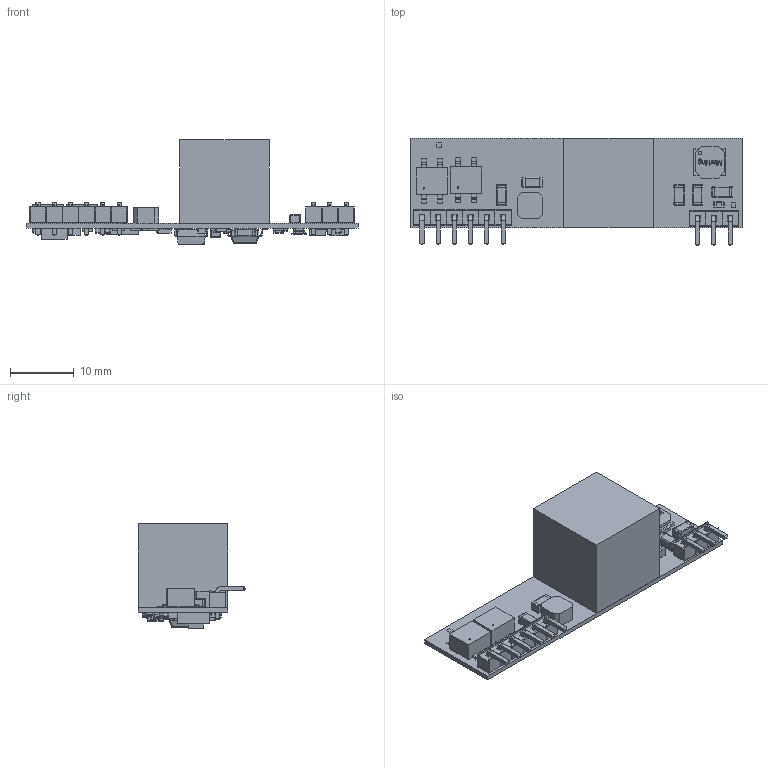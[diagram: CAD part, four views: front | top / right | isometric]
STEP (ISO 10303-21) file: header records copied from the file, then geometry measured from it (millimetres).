
FILE_DESCRIPTION(/* description */ ('PCB Design'),/* implementation_level */ '2;1');
FILE_NAME(/* name */ 'PEM1200AF_1300AF_R9_78',/* time_stamp */ '2025-03-15T16:51:39+05:00',/* author */ (''),/* organization */ (''),/* preprocessor_version */ 'ST-DEVELOPER v16',/* originating_system */ 'allegro_22.1S003',/* authorisation */ '');
FILE_SCHEMA (('AUTOMOTIVE_DESIGN { 1 0 10303 214 3 1 1 }'));
Length unit declared in the file: millimetre
Products named in the file (80): PEM1200AF_1300AF_R9_78; BOARD_OUTLINE; COMPONENTS; FIDUCIAL1; SODFL5026X125N; KS_TRS10_EF13; MCS_QFN_5X5_20P; KS_HDR_1X3_100X_RT_TH; CAPC2012X135N; CAPC3216X180N; CAPC1608X90N; RES2012X135N; RES3216X180N; RES1608X90N; MCS_VSSOP_8P_TI; IND_WE_74404064033; INFO_SMA_SOD123; SOD123_323; KS_DIO_SOD323F_NXP_SMT; MCS_PWR_IND_4X4BD_L1; SOT-23-3; BRDG-RECT-MB2S-INFO; KS_OCT_LTV357T_LITEON; MCS_BERG_1X6; UDFN6B; MCS_SOIC_8P_5X4BD; ASSEMBLY; Body; PinKIdent; PinK; PinA; ThermalPin; PinsArrayLR; PinsArrayTB; P9102D02-E02-1; 0.64 pin; P9102D02-E02-1_1; Fillet1; Fillet2; body2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
Assembly tree (143 placements, depth 5):
  PEM1200AF_1300AF_R9_78
    BOARD_OUTLINE
    COMPONENTS
      FIDUCIAL1  x4
      SODFL5026X125N  x2
        ASSEMBLY
          Body
          PinKIdent
          PinK
          PinA
      KS_TRS10_EF13
      MCS_QFN_5X5_20P
        ASSEMBLY
          Body
          ThermalPin
          PinsArrayLR
          PinsArrayTB
      KS_HDR_1X3_100X_RT_TH
        P9102D02-E02-1
          0.64 pin  x3
          P9102D02-E02-1_1  x3
      CAPC2012X135N
        ASSEMBLY
          Fillet1
          Fillet2
          body2
      CAPC3216X180N  x6
        ASSEMBLY
          Fillet1
          Fillet2
          body2
      CAPC1608X90N  x15
        ASSEMBLY
          Fillet1
          Fillet2
          body2
      RES2012X135N  x2
        Document
      RES3216X180N  x2
        Document
      RES1608X90N  x24
        Document
      MCS_VSSOP_8P_TI
      IND_WE_74404064033
        Assem1
          housing
          contact  x2
          Glue
      INFO_SMA_SOD123
        1PGSMA110Z
      SOD123_323
        MMSZ5226B-7-F
      KS_DIO_SOD323F_NXP_SMT
        1N4148WS-V-GS08
      MCS_PWR_IND_4X4BD_L1
      SOT-23-3
        ASSEMBLY
          Body
          PinsArrayL
          FilletPinR
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Bounding box: 52 x 16.85 x 16.34 mm (x, y, z)
Volume: 519.6 mm3; surface area: 4901.7 mm2
Topology: 275 solids, 284 shells, 3180 faces, 7224 edges, 4421 vertices
Faces by surface type: plane 1980, cylinder 635, bspline 354, sphere 192, extrusion 16, cone 2, torus 1
Full cylindrical faces by diameter (mm): 0.163 x1, 0.21 x2, 0.625 x1, 3 x2
Entity records: 54175 total; most frequent: CARTESIAN_POINT 11649, DIRECTION 6703, ORIENTED_EDGE 5832, VECTOR 3356, LINE 3340, EDGE_CURVE 2931, PCURVE 2132, DEFINITIONAL_REPRESENTATION 2132
